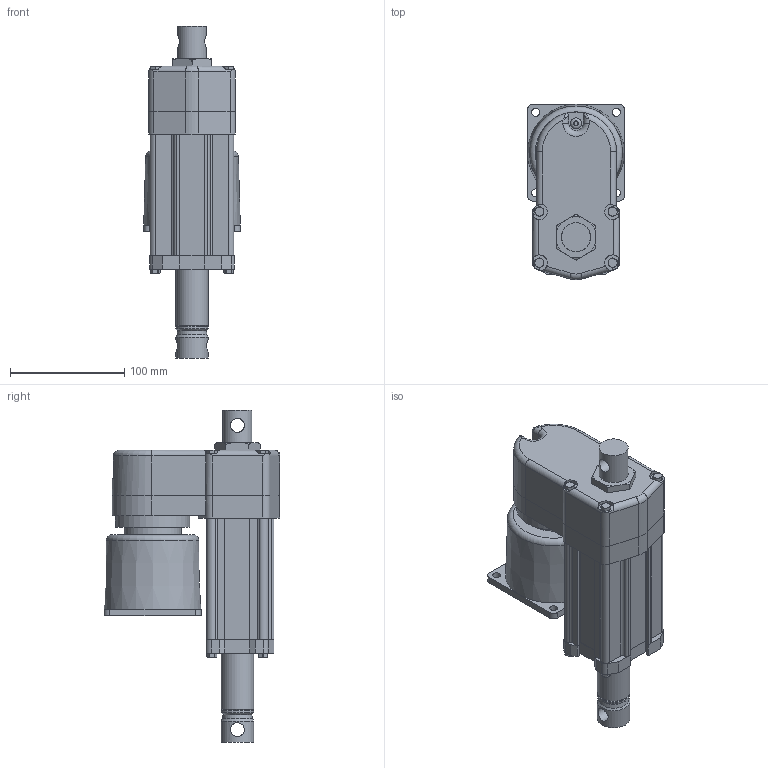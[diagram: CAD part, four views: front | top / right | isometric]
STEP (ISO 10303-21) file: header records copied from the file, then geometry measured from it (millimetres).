
FILE_DESCRIPTION (( 'STEP AP214' ), '1' );
FILE_NAME ('FA14-05A65M05M0_tollo.step', '2020-04-15T18:19:20', ( '' ), ( '' ), 'SwSTEP 2.0', 'SolidWorks 2010', '' );
FILE_SCHEMA (( 'AUTOMOTIVE_DESIGN' ));
Length unit declared in the file: millimetre
Products named in the file (9): Electrak-FA14-House-Acme-Tollo; Electrak-FA14-Rear-Tollo; Electrak-FA14-Motor-Tollo; Electrak-FA14-Tube-Acme-Tollo; Electrak-FA14-Plate-Tollo; Screw-MRT-TT-M5; Screw-M6S-M5; Electrak-FA14-Rod-Acme-Tollo; FA14-05A65M05M0_tollo
Assembly tree (15 placements, depth 3):
  FA14-05A65M05M0_tollo
    Electrak-FA14-House-Acme-Tollo
      Electrak-FA14-Motor-Tollo
      Screw-M6S-M5  x8
      Electrak-FA14-Plate-Tollo
      Screw-MRT-TT-M5
      Electrak-FA14-Rear-Tollo
      Electrak-FA14-Tube-Acme-Tollo
    Electrak-FA14-Rod-Acme-Tollo
Bounding box: 85 x 154.18 x 291.1 mm (x, y, z)
Volume: 989430.2 mm3; surface area: 218639.9 mm2
Topology: 14 solids, 14 shells, 509 faces, 1279 edges, 826 vertices
Faces by surface type: plane 234, cylinder 198, cone 57, torus 18, bspline 2
Full cylindrical faces by diameter (mm): 4.126 x8, 4.8 x6, 5 x8, 5.6 x4, 6 x1, 7 x4, 7.878 x8, 9.5 x1, 11.741 x1, 12.2 x2, 25.4 x1, 28.5 x4, 34.5 x1, 47.625 x1, 50 x1, 65 x1, 80 x1
Entity records: 11671 total; most frequent: CARTESIAN_POINT 2704, DIRECTION 1857, ORIENTED_EDGE 1700, EDGE_CURVE 850, AXIS2_PLACEMENT_3D 686, VERTEX_POINT 577, VECTOR 485, LINE 485
